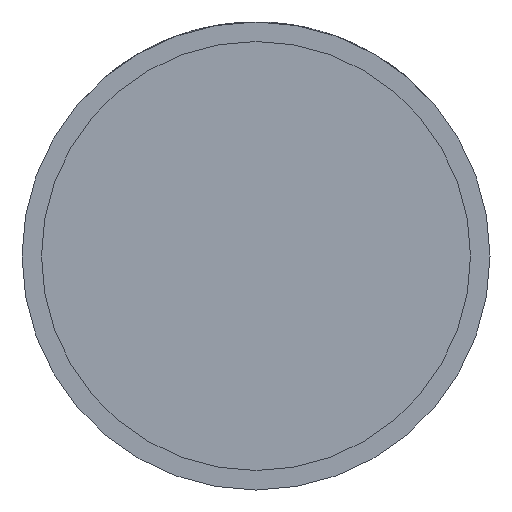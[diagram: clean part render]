
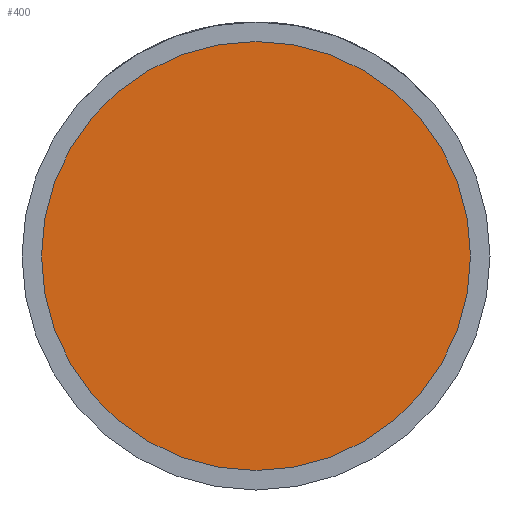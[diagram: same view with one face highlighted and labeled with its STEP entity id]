
A CAD part, front view. The second image highlights one B-rep face of the part: STEP entity #400.
In plain terms, the highlighted planar face has unit normal (0, -1, 0).
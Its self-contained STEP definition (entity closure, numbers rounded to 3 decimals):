
#255 = CARTESIAN_POINT ( 'NONE',  ( 22., -17.5, 0. ) ) ;
#329 = PLANE ( 'NONE',  #3905 ) ;
#400 = ADVANCED_FACE ( 'NONE', ( #2947 ), #329, .T. ) ;
#549 = VERTEX_POINT ( 'NONE', #4197 ) ;
#745 = DIRECTION ( 'NONE',  ( 0., -1., 0. ) ) ;
#815 = EDGE_CURVE ( 'NONE', #549, #2738, #2057, .T. ) ;
#932 = AXIS2_PLACEMENT_3D ( 'NONE', #2859, #4176, #3482 ) ;
#1068 = DIRECTION ( 'NONE',  ( 1., 0., 0. ) ) ;
#1370 = EDGE_CURVE ( 'NONE', #2738, #549, #2251, .T. ) ;
#1466 = DIRECTION ( 'NONE',  ( 1., 0., 0. ) ) ;
#1981 = AXIS2_PLACEMENT_3D ( 'NONE', #3108, #4034, #1466 ) ;
#2053 = CARTESIAN_POINT ( 'NONE',  ( 22., -17.5, 0. ) ) ;
#2057 = CIRCLE ( 'NONE', #1981, 22. ) ;
#2078 = ORIENTED_EDGE ( 'NONE', *, *, #1370, .T. ) ;
#2251 = CIRCLE ( 'NONE', #932, 22. ) ;
#2738 = VERTEX_POINT ( 'NONE', #255 ) ;
#2859 = CARTESIAN_POINT ( 'NONE',  ( 0., -17.5, 0. ) ) ;
#2947 = FACE_OUTER_BOUND ( 'NONE', #3709, .T. ) ;
#3108 = CARTESIAN_POINT ( 'NONE',  ( 0., -17.5, 0. ) ) ;
#3482 = DIRECTION ( 'NONE',  ( 1., 0., 0. ) ) ;
#3709 = EDGE_LOOP ( 'NONE', ( #2078, #4161 ) ) ;
#3905 = AXIS2_PLACEMENT_3D ( 'NONE', #2053, #745, #1068 ) ;
#4034 = DIRECTION ( 'NONE',  ( 0., -1., 0. ) ) ;
#4161 = ORIENTED_EDGE ( 'NONE', *, *, #815, .T. ) ;
#4176 = DIRECTION ( 'NONE',  ( 0., -1., 0. ) ) ;
#4197 = CARTESIAN_POINT ( 'NONE',  ( -22., -17.5, 0. ) ) ;
